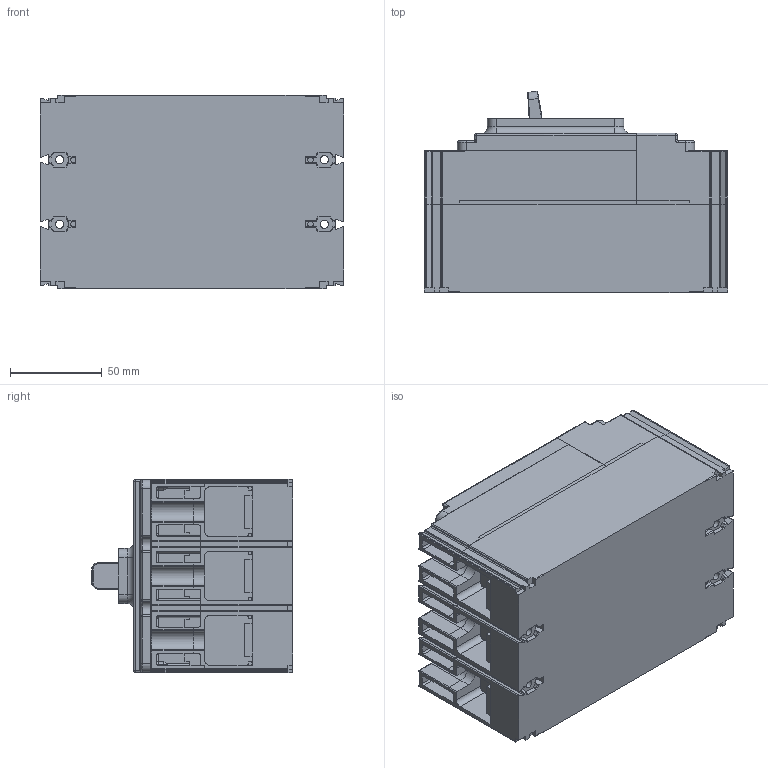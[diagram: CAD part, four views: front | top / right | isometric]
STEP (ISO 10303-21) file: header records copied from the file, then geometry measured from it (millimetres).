
FILE_DESCRIPTION((''),'2;1');
FILE_NAME('U2_3P_TOTAL_ASSY_ASM_ASM','2016-09-08T',('HHI'),(''),'PRO/ENGINEER BY PARAMETRIC TECHNOLOGY CORPORATION, 2012453','PRO/ENGINEER BY PARAMETRIC TECHNOLOGY CORPORATION, 2012453','');
FILE_SCHEMA(('CONFIG_CONTROL_DESIGN'));
Products named in the file (10): U2_3P_BASE_AF0; U2_3P_MAIN_COVER_AF0; U2_3P_TRIP_COVER_AF0; U2_FRONT_COVER_AF0; UP2_HANDLE; U2_MDO_HANDLE_ASSY_AF0_ASM_ASM; U2_MDO_FIXED_ASSY_AF0_ASM_ASM; U2_MDO_MECHANISM_ASSY_AF0_ASM_ASM; UP2_TRIP_BUTTON_AF1; U2_3P_TOTAL_ASSY_ASM_ASM
Assembly tree (9 placements, depth 5):
  U2_3P_TOTAL_ASSY_ASM_ASM
    U2_3P_BASE_AF0
    U2_3P_MAIN_COVER_AF0
    U2_3P_TRIP_COVER_AF0
    U2_FRONT_COVER_AF0
    U2_MDO_MECHANISM_ASSY_AF0_ASM_ASM
      U2_MDO_FIXED_ASSY_AF0_ASM_ASM
        U2_MDO_HANDLE_ASSY_AF0_ASM_ASM
          UP2_HANDLE
    UP2_TRIP_BUTTON_AF1
Bounding box: 165 x 109.38 x 105 mm (x, y, z)
Volume: 1315642.8 mm3; surface area: 200152.1 mm2
Topology: 5 solids, 6 shells, 2029 faces, 5575 edges, 3518 vertices
Faces by surface type: plane 929, cylinder 688, torus 124, extrusion 81, sphere 78, cone 76, bspline 53
Entity records: 68249 total; most frequent: CARTESIAN_POINT 16392, ORIENTED_EDGE 10972, DIRECTION 10804, EDGE_CURVE 5486, AXIS2_PLACEMENT_3D 3735, VERTEX_POINT 3515, VECTOR 3334, LINE 3253
